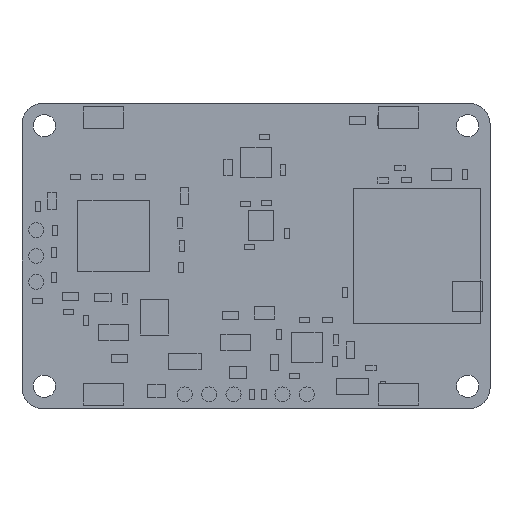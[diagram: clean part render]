
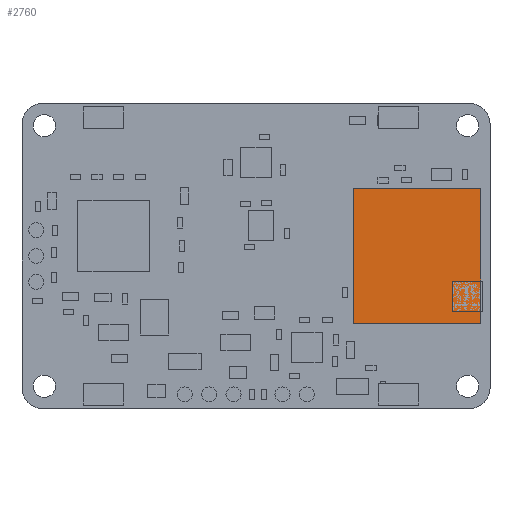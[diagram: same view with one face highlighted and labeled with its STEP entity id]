
A CAD part, top view. The second image highlights one B-rep face of the part: STEP entity #2760.
In plain terms, the highlighted planar face has unit normal (0, 0, 1).
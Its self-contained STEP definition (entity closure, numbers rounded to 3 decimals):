
#2697=DIRECTION('',(1.0,0.0,0.0));
#2713=DIRECTION('',(-1.0,0.0,0.0));
#2730=VECTOR('',#2697,12.5);
#2731=CARTESIAN_POINT('',(9.6,-6.6,12.3));
#2732=LINE('',#2731,#2730);
#2733=VERTEX_POINT('',#2731);
#2734=CARTESIAN_POINT('',(22.1,-6.6,12.3));
#2735=VERTEX_POINT('',#2734);
#2736=EDGE_CURVE('',#2733,#2735,#2732,.T.);
#2737=ORIENTED_EDGE('',*,*,#2736,.T.);
#2738=DIRECTION('',(0.0,1.0,0.0));
#2739=VECTOR('',#2738,13.2);
#2740=LINE('',#2734,#2739);
#2741=CARTESIAN_POINT('',(22.1,6.6,12.3));
#2742=VERTEX_POINT('',#2741);
#2743=EDGE_CURVE('',#2735,#2742,#2740,.T.);
#2744=ORIENTED_EDGE('',*,*,#2743,.T.);
#2745=VECTOR('',#2713,12.5);
#2746=LINE('',#2741,#2745);
#2747=CARTESIAN_POINT('',(9.6,6.6,12.3));
#2748=VERTEX_POINT('',#2747);
#2749=EDGE_CURVE('',#2742,#2748,#2746,.T.);
#2750=ORIENTED_EDGE('',*,*,#2749,.T.);
#2751=VECTOR('',#2738,13.2);
#2752=LINE('',#2731,#2751);
#2753=EDGE_CURVE('',#2733,#2748,#2752,.T.);
#2754=ORIENTED_EDGE('',*,*,#2753,.F.);
#2755=EDGE_LOOP('',(#2737,#2744,#2750,#2754));
#2756=FACE_OUTER_BOUND('',#2755,.T.);
#2757=DIRECTION('',(0.0,0.0,1.0));
#2758=AXIS2_PLACEMENT_3D('',#2731,#2757,#2697);
#2759=PLANE('',#2758);
#2760=ADVANCED_FACE('',(#2756),#2759,.T.);
